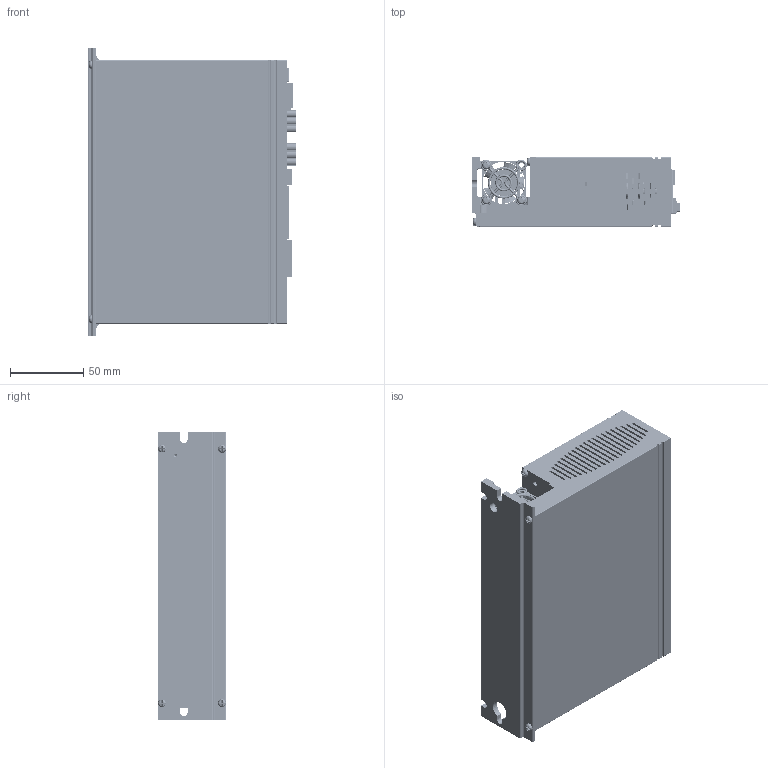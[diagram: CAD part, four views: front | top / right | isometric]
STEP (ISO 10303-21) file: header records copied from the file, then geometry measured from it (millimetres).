
FILE_DESCRIPTION((''),'2;1');
FILE_NAME('SW5_ISD00_ASM','2020-12-04T17:42:11',('Matteo Maccalli'),(''),'CREO PARAMETRIC BY PTC INC, 2019344','CREO PARAMETRIC BY PTC INC, 2019344','');
FILE_SCHEMA(('AUTOMOTIVE_DESIGN { 1 0 10303 214 1 1 1 1 }'));
Products named in the file (808): ISD00_DISSIPATORE-03; AD_00883-03_ISD00; SCATOLA_SW5_D-04; ACC_2E9X9E5; FAN-HOUSE-30X30X10-PROMOCO_FAN-; FAN-30X30X10-PROMOCO_FAN-KDE050; GRIGLIA_30X30; ACC_2E9X19; ISD00_EARTH_FIX-01; AD_01053_ISD00_BLK; BOARD-185; CPP_4X13X9_P10_1_2; CY204_1_ASM; CPP_4X13X9_P10; CY203_1_ASM; CY202_1_ASM; 79202-X02LF; JMP500_ASM; CE_35X30_P10; CE202_ASM; BOARD-38953; USER_LIBRARY-TSSOP-16-1_1_2; IC402_ASM; USER_LIBRARY-ARRAY-1206-4-58410; USER_LIBRARY-ARRAY-1206-4-68119; USER_LIBRARY-ARRAY-1206-4-70352; USER_LIBRARY-ARRAY-1206-4-76785; USER_LIBRARY-ARRAY-1206-4-58388_ASM; RN403_ASM; RN402_ASM; RN401_ASM; RN105_ASM; RN104_ASM; USER_LIBRARY-RES0603-1_1_2; R405_ASM; USER_LIBRARY-TSSOP-16-1; IC401_ASM; IC100_ASM; SW3DPS-0603_SMD_CAPACITOR_1_2; C401_ASM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
Assembly tree (1165 placements, depth 8):
  SW5_ISD00_ASM
    ISD00_DISSIPATORE-03
    AD_00883-03_ISD00
    SCATOLA_SW5_D-04
    ACC_2E9X9E5  x4
    FAN-HOUSE-30X30X10-PROMOCO_FAN-
    FAN-30X30X10-PROMOCO_FAN-KDE050
    GRIGLIA_30X30
    ACC_2E9X19  x3
    ISD00_EARTH_FIX-01
    AD_01053_ISD00_BLK
    ASM0001_ASM
      PCB_ASM
        BOARD-185
        CY204_1_ASM
          CPP_4X13X9_P10_1_2
        CY203_1_ASM
          CPP_4X13X9_P10
        CY202_1_ASM
          CPP_4X13X9_P10
        JMP500_ASM
          79202-X02LF  x2
        CE202_ASM
          CE_35X30_P10
        VIS400-38854_ASM
          ISD00VIS-02_ASM
            BOARD-38953
            IC402_ASM
              USER_LIBRARY-TSSOP-16-1_1_2
            RN403_ASM
              USER_LIBRARY-ARRAY-1206-4-58388_ASM
                USER_LIBRARY-ARRAY-1206-4-58410
                USER_LIBRARY-ARRAY-1206-4-68119
                USER_LIBRARY-ARRAY-1206-4-70352
                USER_LIBRARY-ARRAY-1206-4-76785
            RN402_ASM
              USER_LIBRARY-ARRAY-1206-4-58388_ASM
                USER_LIBRARY-ARRAY-1206-4-58410
                USER_LIBRARY-ARRAY-1206-4-68119
                USER_LIBRARY-ARRAY-1206-4-70352
                USER_LIBRARY-ARRAY-1206-4-76785
            RN401_ASM
              USER_LIBRARY-ARRAY-1206-4-58388_ASM
                USER_LIBRARY-ARRAY-1206-4-58410
                USER_LIBRARY-ARRAY-1206-4-68119
                USER_LIBRARY-ARRAY-1206-4-70352
                USER_LIBRARY-ARRAY-1206-4-76785
            RN105_ASM
              USER_LIBRARY-ARRAY-1206-4-58388_ASM
                USER_LIBRARY-ARRAY-1206-4-58410
                USER_LIBRARY-ARRAY-1206-4-68119
                USER_LIBRARY-ARRAY-1206-4-70352
                USER_LIBRARY-ARRAY-1206-4-76785
            RN104_ASM
              USER_LIBRARY-ARRAY-1206-4-58388_ASM
                USER_LIBRARY-ARRAY-1206-4-58410
                USER_LIBRARY-ARRAY-1206-4-68119
                USER_LIBRARY-ARRAY-1206-4-70352
                USER_LIBRARY-ARRAY-1206-4-76785
            R405_ASM
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Bounding box: 142.78 x 47 x 196.6 mm (x, y, z)
Volume: 480777.2 mm3; surface area: 383716.4 mm2
Topology: 960 solids, 1021 shells, 33774 faces, 85040 edges, 51257 vertices
Faces by surface type: plane 18953, cylinder 9034, sphere 2708, bspline 1464, extrusion 1133, cone 299, torus 183
Entity records: 779929 total; most frequent: CARTESIAN_POINT 176385, DIRECTION 87417, ORIENTED_EDGE 87138, EDGE_CURVE 43633, PRESENTATION_STYLE_ASSIGNMENT 39414, STYLED_ITEM 33379, CURVE_STYLE 32150, VECTOR 30501
